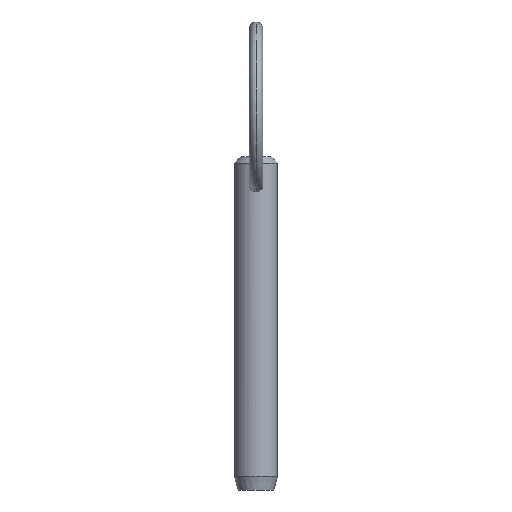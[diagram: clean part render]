
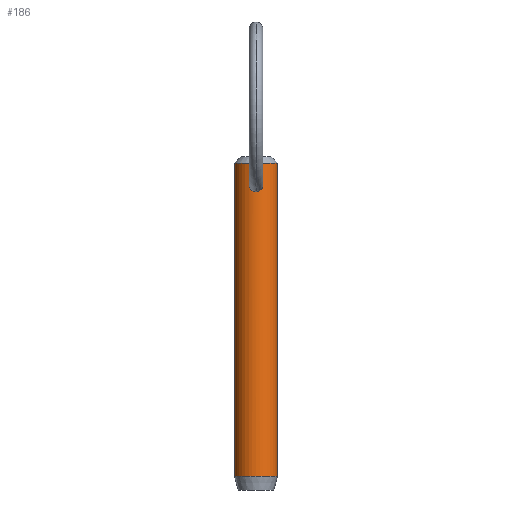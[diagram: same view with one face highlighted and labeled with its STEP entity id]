
A CAD part, front view. The second image highlights one B-rep face of the part: STEP entity #186.
In plain terms, the highlighted cylindrical face has radius 3.175 mm (diameter 6.35 mm), a partial arc.
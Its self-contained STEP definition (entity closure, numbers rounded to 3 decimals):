
#10 = CARTESIAN_POINT ( 'NONE',  ( 0.888, -3.049, 36.509 ) ) ;
#13 = DIRECTION ( 'NONE',  ( 0., 0., -1. ) ) ;
#28 = FACE_BOUND ( 'NONE', #218, .T. ) ;
#41 = CARTESIAN_POINT ( 'NONE',  ( -0.133, -3.173, 38.074 ) ) ;
#43 = CARTESIAN_POINT ( 'NONE',  ( -0.815, -3.07, 36.395 ) ) ;
#54 = LINE ( 'NONE', #462, #433 ) ;
#72 = VERTEX_POINT ( 'NONE', #336 ) ;
#74 = CARTESIAN_POINT ( 'NONE',  ( -0.888, -3.049, 36.509 ) ) ;
#77 = CARTESIAN_POINT ( 'NONE',  ( 0., 0., -5.92 ) ) ;
#78 = CARTESIAN_POINT ( 'NONE',  ( -0.516, -3.135, 36.131 ) ) ;
#91 = DIRECTION ( 'NONE',  ( 0., 0., -1. ) ) ;
#95 = CARTESIAN_POINT ( 'NONE',  ( 0.51, -3.136, 37.934 ) ) ;
#102 = B_SPLINE_CURVE_WITH_KNOTS ( 'NONE', 3,
 ( #370, #206, #121, #78, #404, #43, #74, #445, #449, #485, #282, #481, #342, #450, #340, #41, #310, #279 ),
 .UNSPECIFIED., .F., .F.,
 ( 4, 2, 2, 2, 2, 2, 2, 2, 4 ),
 ( 0.006, 0.006, 0.007, 0.007, 0.008, 0.008, 0.009, 0.009, 0.009 ),
 .UNSPECIFIED. ) ;
#113 = CIRCLE ( 'NONE', #122, 3.175 ) ;
#120 = DIRECTION ( 'NONE',  ( 0., 0., -1. ) ) ;
#121 = CARTESIAN_POINT ( 'NONE',  ( -0.269, -3.166, 36.029 ) ) ;
#122 = AXIS2_PLACEMENT_3D ( 'NONE', #256, #176, #419 ) ;
#123 = LINE ( 'NONE', #137, #390 ) ;
#135 = CARTESIAN_POINT ( 'NONE',  ( 0.982, -3.02, 36.758 ) ) ;
#137 = CARTESIAN_POINT ( 'NONE',  ( 3.175, 0., 35.6 ) ) ;
#141 = CARTESIAN_POINT ( 'NONE',  ( 0., -3.175, 36.003 ) ) ;
#144 = EDGE_CURVE ( 'NONE', #426, #163, #366, .T. ) ;
#160 = EDGE_CURVE ( 'NONE', #355, #72, #102, .T. ) ;
#163 = VERTEX_POINT ( 'NONE', #443 ) ;
#169 = CARTESIAN_POINT ( 'NONE',  ( -3.175, 0., 40.18 ) ) ;
#176 = DIRECTION ( 'NONE',  ( 0., 0., -1. ) ) ;
#178 = CARTESIAN_POINT ( 'NONE',  ( 0.992, -3.016, 37.294 ) ) ;
#186 = ADVANCED_FACE ( 'NONE', ( #264, #28 ), #245, .T. ) ;
#190 = EDGE_CURVE ( 'NONE', #202, #335, #113, .T. ) ;
#193 = EDGE_CURVE ( 'NONE', #72, #355, #267, .T. ) ;
#198 = ORIENTED_EDGE ( 'NONE', *, *, #160, .T. ) ;
#202 = VERTEX_POINT ( 'NONE', #349 ) ;
#206 = CARTESIAN_POINT ( 'NONE',  ( -0.134, -3.175, 36.003 ) ) ;
#215 = CARTESIAN_POINT ( 'NONE',  ( 1.004, -3.012, 36.893 ) ) ;
#218 = EDGE_LOOP ( 'NONE', ( #338, #198 ) ) ;
#219 = CARTESIAN_POINT ( 'NONE',  ( 0.268, -3.166, 36.029 ) ) ;
#232 = ORIENTED_EDGE ( 'NONE', *, *, #144, .T. ) ;
#245 = CYLINDRICAL_SURFACE ( 'NONE', #339, 3.175 ) ;
#247 = CARTESIAN_POINT ( 'NONE',  ( 0., 0., 35.6 ) ) ;
#256 = CARTESIAN_POINT ( 'NONE',  ( 0., 0., 40.18 ) ) ;
#261 = EDGE_CURVE ( 'NONE', #202, #163, #123, .T. ) ;
#264 = FACE_OUTER_BOUND ( 'NONE', #444, .T. ) ;
#267 = B_SPLINE_CURVE_WITH_KNOTS ( 'NONE', 3,
 ( #322, #320, #376, #95, #458, #454, #178, #215, #135, #10, #384, #346, #463, #219, #315, #288 ),
 .UNSPECIFIED., .F., .F.,
 ( 4, 2, 2, 2, 2, 2, 2, 4 ),
 ( 0.003, 0.003, 0.004, 0.004, 0.005, 0.005, 0.006, 0.006 ),
 .UNSPECIFIED. ) ;
#279 = CARTESIAN_POINT ( 'NONE',  ( 0., -3.175, 38.082 ) ) ;
#280 = DIRECTION ( 'NONE',  ( -1., 0., 0. ) ) ;
#281 = DIRECTION ( 'NONE',  ( -1., 0., 0. ) ) ;
#282 = CARTESIAN_POINT ( 'NONE',  ( -0.882, -3.055, 37.56 ) ) ;
#288 = CARTESIAN_POINT ( 'NONE',  ( 0., -3.175, 36.003 ) ) ;
#299 = ORIENTED_EDGE ( 'NONE', *, *, #190, .T. ) ;
#310 = CARTESIAN_POINT ( 'NONE',  ( -0.067, -3.175, 38.082 ) ) ;
#311 = ORIENTED_EDGE ( 'NONE', *, *, #261, .F. ) ;
#315 = CARTESIAN_POINT ( 'NONE',  ( 0.134, -3.175, 36.003 ) ) ;
#320 = CARTESIAN_POINT ( 'NONE',  ( 0.134, -3.175, 38.082 ) ) ;
#322 = CARTESIAN_POINT ( 'NONE',  ( 0., -3.175, 38.082 ) ) ;
#335 = VERTEX_POINT ( 'NONE', #169 ) ;
#336 = CARTESIAN_POINT ( 'NONE',  ( 0., -3.175, 38.082 ) ) ;
#338 = ORIENTED_EDGE ( 'NONE', *, *, #193, .T. ) ;
#339 = AXIS2_PLACEMENT_3D ( 'NONE', #247, #120, #280 ) ;
#340 = CARTESIAN_POINT ( 'NONE',  ( -0.264, -3.165, 38.044 ) ) ;
#342 = CARTESIAN_POINT ( 'NONE',  ( -0.508, -3.136, 37.935 ) ) ;
#346 = CARTESIAN_POINT ( 'NONE',  ( 0.628, -3.114, 36.204 ) ) ;
#349 = CARTESIAN_POINT ( 'NONE',  ( 3.175, 0., 40.18 ) ) ;
#355 = VERTEX_POINT ( 'NONE', #141 ) ;
#366 = CIRCLE ( 'NONE', #459, 3.175 ) ;
#370 = CARTESIAN_POINT ( 'NONE',  ( 0., -3.175, 36.003 ) ) ;
#376 = CARTESIAN_POINT ( 'NONE',  ( 0.269, -3.166, 38.05 ) ) ;
#377 = EDGE_CURVE ( 'NONE', #335, #426, #54, .T. ) ;
#384 = CARTESIAN_POINT ( 'NONE',  ( 0.815, -3.07, 36.395 ) ) ;
#390 = VECTOR ( 'NONE', #91, 1000. ) ;
#404 = CARTESIAN_POINT ( 'NONE',  ( -0.629, -3.114, 36.205 ) ) ;
#419 = DIRECTION ( 'NONE',  ( 1., 0., 0. ) ) ;
#420 = CARTESIAN_POINT ( 'NONE',  ( -3.175, 0., -5.92 ) ) ;
#426 = VERTEX_POINT ( 'NONE', #420 ) ;
#433 = VECTOR ( 'NONE', #13, 1000. ) ;
#443 = CARTESIAN_POINT ( 'NONE',  ( 3.175, 0., -5.92 ) ) ;
#444 = EDGE_LOOP ( 'NONE', ( #311, #299, #451, #232 ) ) ;
#445 = CARTESIAN_POINT ( 'NONE',  ( -0.983, -3.02, 36.759 ) ) ;
#448 = DIRECTION ( 'NONE',  ( 0., 0., 1. ) ) ;
#449 = CARTESIAN_POINT ( 'NONE',  ( -1.004, -3.012, 36.895 ) ) ;
#450 = CARTESIAN_POINT ( 'NONE',  ( -0.328, -3.159, 38.021 ) ) ;
#451 = ORIENTED_EDGE ( 'NONE', *, *, #377, .T. ) ;
#454 = CARTESIAN_POINT ( 'NONE',  ( 0.884, -3.055, 37.557 ) ) ;
#458 = CARTESIAN_POINT ( 'NONE',  ( 0.617, -3.116, 37.851 ) ) ;
#459 = AXIS2_PLACEMENT_3D ( 'NONE', #77, #448, #281 ) ;
#462 = CARTESIAN_POINT ( 'NONE',  ( -3.175, 0., 35.6 ) ) ;
#463 = CARTESIAN_POINT ( 'NONE',  ( 0.515, -3.135, 36.13 ) ) ;
#481 = CARTESIAN_POINT ( 'NONE',  ( -0.615, -3.116, 37.853 ) ) ;
#485 = CARTESIAN_POINT ( 'NONE',  ( -0.991, -3.016, 37.296 ) ) ;
